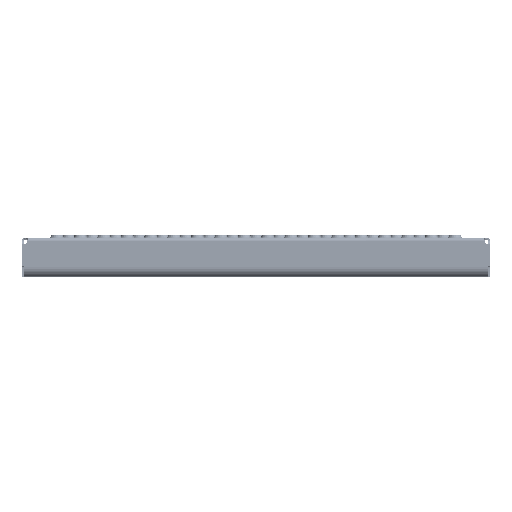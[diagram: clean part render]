
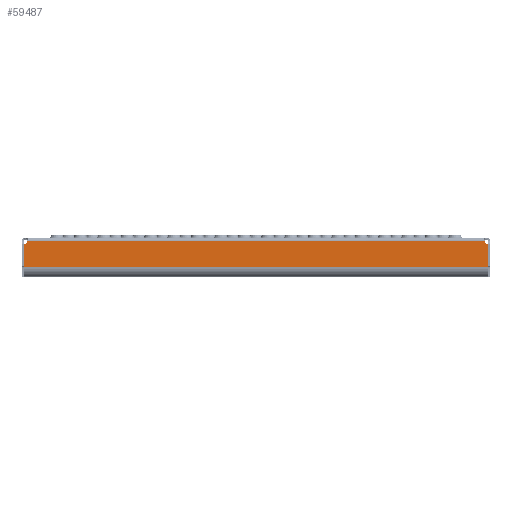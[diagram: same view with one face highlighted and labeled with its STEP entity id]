
A CAD part, top view. The second image highlights one B-rep face of the part: STEP entity #59487.
In plain terms, the highlighted planar face has unit normal (0, 0, 1).
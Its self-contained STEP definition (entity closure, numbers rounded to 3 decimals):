
#7446 = DIRECTION ( 'NONE',  ( 0., 1., 0. ) ) ;
#7642 = EDGE_CURVE ( 'NONE', #127548, #8526, #150413, .T. ) ;
#8526 = VERTEX_POINT ( 'NONE', #104725 ) ;
#12150 = CARTESIAN_POINT ( 'NONE',  ( -249., 245.712, 125. ) ) ;
#17279 = AXIS2_PLACEMENT_3D ( 'NONE', #21458, #38791, #86414 ) ;
#18966 = ORIENTED_EDGE ( 'NONE', *, *, #136016, .T. ) ;
#21458 = CARTESIAN_POINT ( 'NONE',  ( 249., -2.288, 125. ) ) ;
#24155 = CIRCLE ( 'NONE', #17279, 5. ) ;
#24256 = VERTEX_POINT ( 'NONE', #190291 ) ;
#25968 = LINE ( 'NONE', #39021, #59563 ) ;
#29044 = LINE ( 'NONE', #78802, #177453 ) ;
#33877 = EDGE_CURVE ( 'NONE', #127548, #24256, #29044, .T. ) ;
#36406 = EDGE_LOOP ( 'NONE', ( #189157, #77500, #131077, #151934, #136995, #18966 ) ) ;
#38791 = DIRECTION ( 'NONE',  ( 0., 0., -1. ) ) ;
#39021 = CARTESIAN_POINT ( 'NONE',  ( -247.99, -31.998, 125. ) ) ;
#51303 = VERTEX_POINT ( 'NONE', #152055 ) ;
#59487 = ADVANCED_FACE ( 'NONE', ( #76042 ), #125862, .T. ) ;
#59563 = VECTOR ( 'NONE', #171143, 1000. ) ;
#59906 = EDGE_CURVE ( 'NONE', #51303, #24256, #24155, .T. ) ;
#62574 = DIRECTION ( 'NONE',  ( 1., 0., 0. ) ) ;
#76042 = FACE_OUTER_BOUND ( 'NONE', #36406, .T. ) ;
#77500 = ORIENTED_EDGE ( 'NONE', *, *, #86652, .T. ) ;
#77707 = AXIS2_PLACEMENT_3D ( 'NONE', #200793, #104417, #154240 ) ;
#78153 = DIRECTION ( 'NONE',  ( 0., 0., 1. ) ) ;
#78802 = CARTESIAN_POINT ( 'NONE',  ( -249., -4., 125. ) ) ;
#86414 = DIRECTION ( 'NONE',  ( 0., -1., 0. ) ) ;
#86652 = EDGE_CURVE ( 'NONE', #194673, #51303, #105899, .T. ) ;
#87421 = CARTESIAN_POINT ( 'NONE',  ( -247.99, -31.998, 125. ) ) ;
#104417 = DIRECTION ( 'NONE',  ( 0., 0., -1. ) ) ;
#104725 = CARTESIAN_POINT ( 'NONE',  ( -247.99, -7.185, 125. ) ) ;
#105899 = LINE ( 'NONE', #124267, #114163 ) ;
#113200 = VERTEX_POINT ( 'NONE', #87421 ) ;
#114163 = VECTOR ( 'NONE', #7446, 1000. ) ;
#122433 = DIRECTION ( 'NONE',  ( 0., -1., 0. ) ) ;
#124267 = CARTESIAN_POINT ( 'NONE',  ( 247.99, -7.185, 125. ) ) ;
#125862 = PLANE ( 'NONE',  #158711 ) ;
#127548 = VERTEX_POINT ( 'NONE', #200078 ) ;
#131077 = ORIENTED_EDGE ( 'NONE', *, *, #59906, .T. ) ;
#136016 = EDGE_CURVE ( 'NONE', #8526, #113200, #192761, .T. ) ;
#136995 = ORIENTED_EDGE ( 'NONE', *, *, #7642, .T. ) ;
#142997 = CARTESIAN_POINT ( 'NONE',  ( -247.99, -7.185, 125. ) ) ;
#144240 = DIRECTION ( 'NONE',  ( 0., -1., 0. ) ) ;
#150413 = CIRCLE ( 'NONE', #77707, 5. ) ;
#151934 = ORIENTED_EDGE ( 'NONE', *, *, #33877, .F. ) ;
#152055 = CARTESIAN_POINT ( 'NONE',  ( 247.99, -7.185, 125. ) ) ;
#154240 = DIRECTION ( 'NONE',  ( 0., -1., 0. ) ) ;
#155479 = VECTOR ( 'NONE', #122433, 1000. ) ;
#158711 = AXIS2_PLACEMENT_3D ( 'NONE', #12150, #78153, #144240 ) ;
#158999 = CARTESIAN_POINT ( 'NONE',  ( 247.99, -31.998, 125. ) ) ;
#167635 = EDGE_CURVE ( 'NONE', #113200, #194673, #25968, .T. ) ;
#171143 = DIRECTION ( 'NONE',  ( 1., 0., 0. ) ) ;
#177453 = VECTOR ( 'NONE', #62574, 1000. ) ;
#189157 = ORIENTED_EDGE ( 'NONE', *, *, #167635, .T. ) ;
#190291 = CARTESIAN_POINT ( 'NONE',  ( 244.302, -4., 125. ) ) ;
#192761 = LINE ( 'NONE', #142997, #155479 ) ;
#194673 = VERTEX_POINT ( 'NONE', #158999 ) ;
#200078 = CARTESIAN_POINT ( 'NONE',  ( -244.302, -4., 125. ) ) ;
#200793 = CARTESIAN_POINT ( 'NONE',  ( -249., -2.288, 125. ) ) ;
